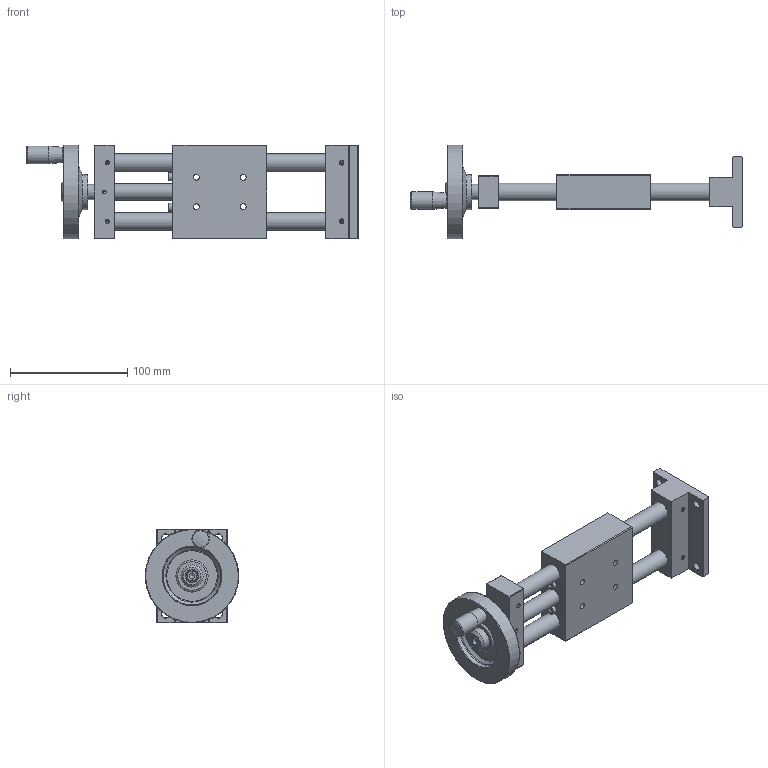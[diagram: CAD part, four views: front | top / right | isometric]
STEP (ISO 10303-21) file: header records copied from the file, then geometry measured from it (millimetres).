
FILE_DESCRIPTION (( 'STEP AP203' ), '1' );
FILE_NAME ('BHT80-50.STEP', '2024-07-30T01:06:48', ( 'Windows User' ), ( 'P R C' ), 'SwSTEP 2.0', 'SolidWorks 2024', '' );
FILE_SCHEMA (( 'CONFIG_CONTROL_DESIGN' ));
Length unit declared in the file: millimetre
Products named in the file (1): BHT80-50
Bounding box: 283.4 x 79.88 x 80 mm (x, y, z)
Volume: 411298.2 mm3; surface area: 119286 mm2
Topology: 27 solids, 27 shells, 460 faces, 1023 edges, 639 vertices
Faces by surface type: plane 285, cylinder 94, cone 66, torus 14, sphere 1
Full cylindrical faces by diameter (mm): 3.3 x12, 4 x12, 4.5 x2, 4.917 x1, 5 x5, 6 x2, 6.6 x5, 7 x2, 7.5 x2, 8 x2, 10 x9, 10.1 x1, 11 x1, 13 x1, 14 x2, 14.5 x1, 15 x9, 16 x2, 17 x3, 17.1 x1, 19 x1, 20 x1, 20.5 x1, 30 x1, 50 x1, 80 x1
Entity records: 12117 total; most frequent: CARTESIAN_POINT 2503, DIRECTION 2040, ORIENTED_EDGE 1622, EDGE_CURVE 811, AXIS2_PLACEMENT_3D 784, EDGE_LOOP 716, VERTEX_POINT 589, FACE_OUTER_BOUND 555
